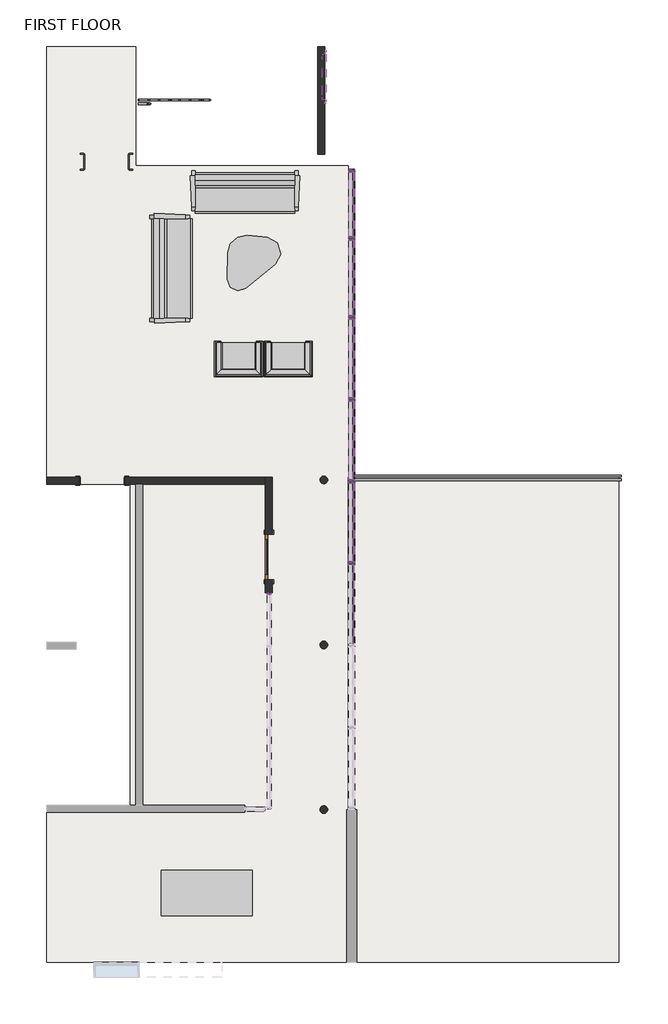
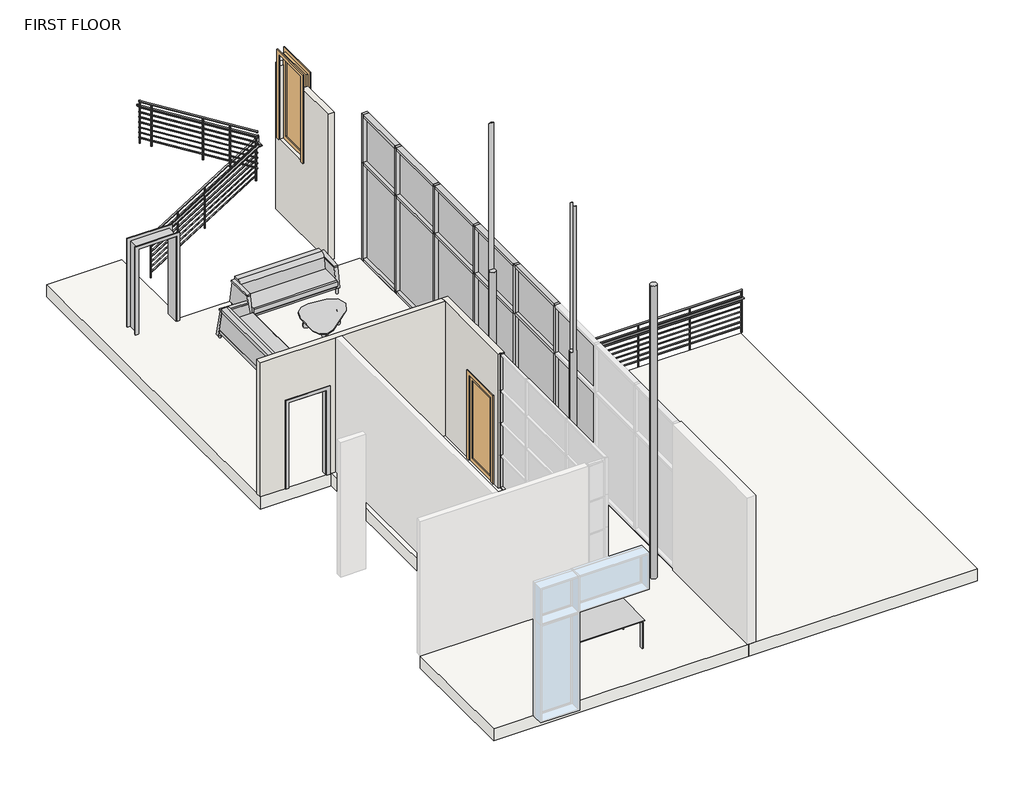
# One storey, part 2 of 2: 33 members, 12 plates, 6 furniture elements, 3 columns, 3 walls, 2 doors, 2 proxies, 2 railings, 2 slabs.
"""IFC4 building model written with IfcOpenShell, lengths in millimetres."""

from ifc_helpers import new_model, si_unit, point, frame, frame_2d, origin, place, context, project, spatial, polyline, circle_curve, trimmed, segment, composite_curve, outline, extrude, faceted_brep, transform, mapped, element, save
from ifc_brep_helpers import plane_surface, cylinder_surface, advanced_brep
from components import proxy_e62dbe84, proxy_6a329109, door_e49b49a8, door_4364fc02, chair_corbu_chair_corbu_2764bdef, maple_legs_6788962f, rectangular_1aa2b72e, furniture_fb1f61f5, member_3d7f9b7e, member_c5b617ba, member_2046a979, member_f0fea5a5, member_591cd9a7, member_245f6595, member_6ce1ec76, member_69c58ec1, member_2b49869a, member_798c2a08, member_d386c7f1, member_75074519, member_ee409385, system_panel_system_panel_6c834083, system_panel_system_panel_0ca576fe, system_panel_system_panel_0b02f3c1, system_panel_system_panel_1039fe1f, system_panel_system_panel_958c1d96, system_panel_system_panel_35b29ec2, guardrail_pipe_18aa489d, guardrail_pipe_fbcf2664

model = new_model("IFC4")

# Units and contexts
model_context = context("Model", 3, world=origin())
ifc_project = project(units=[si_unit("LENGTHUNIT", "METRE", prefix="MILLI")], contexts=[model_context])

# Site, building, storey
site = spatial("IfcSite", under=ifc_project)
building = spatial("IfcBuilding", under=site)
storey = spatial("IfcBuildingStorey", under=building, Name="FIRST FLOOR", Elevation=3657.6)

# Proxies
placement = place(None, origin())
proxy_shape = proxy_e62dbe84(model_context)
element("IfcBuildingElementProxy", 1, Name="Opening-Cased : 36\" x 84\"", ObjectType="Opening-Cased : 36\" x 84\"", at=placement, inside=storey, context=model_context, shape_type="MappedRepresentation", body=[
    mapped(proxy_shape, transform((-3360.7491514, 2930.2310017, 3657.6), x_axis=(-1.0, 0.0, 0.0), y_axis=(0.0, -1.0, 0.0), z_axis=(0.0, 0.0, 1.0))),
])
proxy_2_shape = proxy_6a329109(model_context)
element("IfcBuildingElementProxy", 2, Name="Opening-Cased : 36\" x 84\"", ObjectType="Opening-Cased : 36\" x 84\"", at=placement, inside=storey, context=model_context, shape_type="MappedRepresentation", body=[
    mapped(proxy_2_shape, transform((-3261.691233, 9304.759643, 3657.6), x_axis=(1.0, 0.0, 0.0), y_axis=(0.0, 1.0, 0.0), z_axis=(0.0, 0.0, 1.0))),
])

# Columns
element("IfcColumn", 3, ObjectType="Round Column : 06\" Diameter", at=placement, inside=storey, context=model_context, shape_type="AdvancedBrep", body=[
    advanced_brep(
    [(1126.1605983, 3000.0810017, 10972.8), (1070.1560388, 3024.609643, 10972.8), (1014.1514793, 3000.0810017, 10972.8), (1146.3560388, 2948.409643, 3657.6), (993.9560388, 2948.409643, 3657.6), (1070.1560388, 3024.609643, 3657.6), (1126.1605983, 3000.0810017, 7315.2), (1146.3560388, 2948.409643, 7315.2), (993.9560388, 2948.409643, 7315.2), (1014.1514793, 3000.0810017, 7315.2)],
    [
        (0, 1, circle_curve(frame((1070.1560388, 2948.409643, 10972.8), z_axis=(0.0, 0.0, 1.0), x_axis=(1.0, 0.0, 0.0)), 76.2)),
        (1, 2, circle_curve(frame((1070.1560388, 2948.409643, 10972.8), z_axis=(0.0, 0.0, 1.0), x_axis=(1.0, 0.0, 0.0)), 76.2)),
        (2, 0),
        (3, 4, circle_curve(frame((1070.1560388, 2948.409643, 3657.6), z_axis=(0.0, 0.0, -1.0), x_axis=(1.0, 0.0, 0.0)), 76.2)),
        (4, 5, circle_curve(frame((1070.1560388, 2948.409643, 3657.6), z_axis=(0.0, 0.0, -1.0), x_axis=(1.0, 0.0, 0.0)), 76.2)),
        (5, 3, circle_curve(frame((1070.1560388, 2948.409643, 3657.6), z_axis=(0.0, 0.0, -1.0), x_axis=(1.0, 0.0, 0.0)), 76.2)),
        (5, 1),
        (0, 6),
        (6, 7, circle_curve(frame((1070.1560388, 2948.409643, 7315.2), z_axis=(0.0, 0.0, -1.0), x_axis=(1.0, 0.0, 0.0)), 76.2)),
        (7, 3),
        (4, 8),
        (8, 9, circle_curve(frame((1070.1560388, 2948.409643, 7315.2), z_axis=(0.0, 0.0, -1.0), x_axis=(1.0, 0.0, 0.0)), 76.2)),
        (9, 2),
        (7, 8, circle_curve(frame((1070.1560388, 2948.409643, 7315.2), z_axis=(0.0, 0.0, -1.0), x_axis=(1.0, 0.0, 0.0)), 76.2)),
        (9, 6),
    ],
    [
        plane_surface(frame((1146.3560388, 2948.409643, 10972.8), z_axis=(0.0, 0.0, 1.0), x_axis=(0.0, 1.0, 0.0))),
        plane_surface(frame((1146.3560388, 2948.409643, 3657.6), z_axis=(0.0, 0.0, -1.0), x_axis=(0.0, -1.0, 0.0))),
        cylinder_surface(frame((1070.1560388, 2948.409643, 3657.6), z_axis=(0.0, 0.0, 1.0), x_axis=(1.0, 0.0, 0.0)), 76.2),
        plane_surface(frame((-4460.5633563, 3000.0810017, 7315.2), z_axis=(0.0, -1.0, 0.0), x_axis=(-1.0, 0.0, 0.0))),
        plane_surface(frame((-4619.4439612, 2860.3810017, 7315.2), z_axis=(0.0, 0.0, 1.0), x_axis=(0.0, 1.0, 0.0))),
    ],
    [
        (0, [[1, 2, 3]]),
        (1, [[4, 5, 6]]),
        (2, [[-6, 7, -1, 8, 9, 10]]),
        (2, [[-5, 11, 12, 13, -2, -7]]),
        (2, [[-4, -10, 14, -11]]),
        (3, [[15, -8, -3, -13]]),
        (4, [[-15, -12, -14, -9]]),
    ],
),
])
element("IfcColumn", 4, ObjectType="Round Column : 06\" Diameter", at=placement, inside=storey, context=model_context, shape_type="AdvancedBrep", body=[
    advanced_brep(
    [(1037.7772332, -416.2189983, 10972.8), (1102.5348444, -416.2189983, 10972.8), (1146.3560388, -347.240357, 3657.6), (993.9560388, -347.240357, 3657.6), (1070.1560388, -271.040357, 3657.6), (1070.1560388, -271.040357, 10972.8), (1098.5273168, -276.5189983, 10972.8), (1098.5273168, -276.5189983, 7315.2), (1146.3560388, -347.240357, 7315.2), (993.9560388, -347.240357, 7315.2), (1041.7847608, -276.5189983, 7315.2), (1041.7847608, -276.5189983, 10972.8), (1102.5348444, -416.2189983, 7315.2), (1037.7772332, -416.2189983, 7315.2)],
    [
        (0, 1, circle_curve(frame((1070.1560388, -347.240357, 10972.8), z_axis=(0.0, 0.0, 1.0), x_axis=(1.0, 0.0, 0.0)), 76.2)),
        (1, 0),
        (2, 3, circle_curve(frame((1070.1560388, -347.240357, 3657.6), z_axis=(0.0, 0.0, -1.0), x_axis=(1.0, 0.0, 0.0)), 76.2)),
        (3, 4, circle_curve(frame((1070.1560388, -347.240357, 3657.6), z_axis=(0.0, 0.0, -1.0), x_axis=(1.0, 0.0, 0.0)), 76.2)),
        (4, 2, circle_curve(frame((1070.1560388, -347.240357, 3657.6), z_axis=(0.0, 0.0, -1.0), x_axis=(1.0, 0.0, 0.0)), 76.2)),
        (4, 5),
        (5, 6, circle_curve(frame((1070.1560388, -347.240357, 10972.8), z_axis=(0.0, 0.0, -1.0), x_axis=(1.0, 0.0, 0.0)), 76.2)),
        (6, 7),
        (7, 8, circle_curve(frame((1070.1560388, -347.240357, 7315.2), z_axis=(0.0, 0.0, -1.0), x_axis=(1.0, 0.0, 0.0)), 76.2)),
        (8, 2),
        (3, 9),
        (9, 10, circle_curve(frame((1070.1560388, -347.240357, 7315.2), z_axis=(0.0, 0.0, -1.0), x_axis=(1.0, 0.0, 0.0)), 76.2)),
        (10, 11),
        (11, 5, circle_curve(frame((1070.1560388, -347.240357, 10972.8), z_axis=(0.0, 0.0, -1.0), x_axis=(1.0, 0.0, 0.0)), 76.2)),
        (8, 12, circle_curve(frame((1070.1560388, -347.240357, 7315.2), z_axis=(0.0, 0.0, -1.0), x_axis=(1.0, 0.0, 0.0)), 76.2)),
        (12, 1),
        (0, 13),
        (13, 9, circle_curve(frame((1070.1560388, -347.240357, 7315.2), z_axis=(0.0, 0.0, -1.0), x_axis=(1.0, 0.0, 0.0)), 76.2)),
        (12, 13),
        (10, 7),
        (6, 11),
    ],
    [
        plane_surface(frame((1146.3560388, -347.240357, 10972.8), z_axis=(0.0, 0.0, 1.0), x_axis=(0.0, 1.0, 0.0))),
        plane_surface(frame((1146.3560388, -347.240357, 3657.6), z_axis=(0.0, 0.0, -1.0), x_axis=(0.0, -1.0, 0.0))),
        cylinder_surface(frame((1070.1560388, -347.240357, 3657.6), z_axis=(0.0, 0.0, 1.0), x_axis=(1.0, 0.0, 0.0)), 76.2),
        plane_surface(frame((-2203.0798898, -416.2189983, 7315.2), z_axis=(0.0, 1.0, 0.0), x_axis=(1.0, 0.0, 0.0))),
        plane_surface(frame((-2203.0798898, -276.5189983, 7315.2), z_axis=(0.0, -1.0, 0.0), x_axis=(-1.0, 0.0, 0.0))),
        plane_surface(frame((-4619.4439612, -416.2189983, 7315.2), z_axis=(0.0, 0.0, 1.0), x_axis=(0.0, 1.0, 0.0))),
    ],
    [
        (0, [[1, 2]]),
        (1, [[3, 4, 5]]),
        (2, [[-5, 6, 7, 8, 9, 10]]),
        (2, [[-4, 11, 12, 13, 14, -6]]),
        (2, [[-3, -10, 15, 16, -1, 17, 18, -11]]),
        (3, [[19, -17, -2, -16]]),
        (4, [[20, -8, 21, -13]]),
        (5, [[-19, -15, -9, -20, -12, -18]]),
        (0, [[-7, -14, -21]]),
    ],
),
])
element("IfcColumn", 5, ObjectType="Round Column : 06\" Diameter", at=placement, inside=storey, context=model_context, shape_type="SweptSolid", body=[
    extrude(outline(composite_curve([segment(trimmed(circle_curve(frame_2d((1070.1560388, -3636.540357)), 76.2), [point((1146.3560388, -3636.540357))], [point((993.9560388, -3636.540357))], False, "CARTESIAN"), True, "CONTINUOUS"), segment(trimmed(circle_curve(frame_2d((1070.1560388, -3636.540357)), 76.2), [point((993.9560388, -3636.540357))], [point((1070.1560388, -3560.340357))], False, "CARTESIAN"), True, "CONTINUOUS"), segment(trimmed(circle_curve(frame_2d((1070.1560388, -3636.540357)), 76.2), [point((1070.1560388, -3560.340357))], [point((1146.3560388, -3636.540357))], False, "CARTESIAN"), True, "CONTINUOUS")], self_intersect=False)), frame((0.0, 0.0, 3657.6), z_axis=(0.0, 0.0, 1.0), x_axis=(1.0, 0.0, 0.0)), (0.0, 0.0, 1.0), 7315.2),
])

# Doors
door_shape = door_e49b49a8(model_context)
element("IfcDoor", 6, ObjectType="Single-Glass 1 : 36\" x 84\"", at=placement, inside=storey, context=model_context, shape_type="MappedRepresentation", body=[
    mapped(door_shape, transform((-25.1604947, 1406.2310017, 3657.6), x_axis=(0.0, 1.0, 0.0), y_axis=(-1.0, 0.0, 0.0), z_axis=(0.0, 0.0, 1.0))),
])
door_2_shape = door_4364fc02(model_context)
element("IfcDoor", 7, ObjectType="Single-Glass 1 : 36\" x 84\"", at=placement, inside=storey, context=model_context, shape_type="MappedRepresentation", body=[
    mapped(door_2_shape, transform((1019.3560388, 10993.859643, 5486.4), x_axis=(0.0, 1.0, 0.0), y_axis=(-1.0, 0.0, 0.0), z_axis=(0.0, 0.0, 1.0))),
])

# Furniture
chair_corbu_chair_corbu_shape = chair_corbu_chair_corbu_2764bdef(model_context)
element("IfcFurniture", 8, ObjectType="Chair-Corbu : Chair-Corbu", at=placement, inside=storey, context=model_context, shape_type="MappedRepresentation", body=[
    mapped(chair_corbu_chair_corbu_shape, transform((-58.2701907, 5828.6440797, 3657.6), x_axis=(-1.0, 0.0, 0.0), y_axis=(0.0, -1.0, 0.0), z_axis=(0.0, 0.0, 1.0))),
])
element("IfcFurniture", 9, ObjectType="Chair-Corbu : Chair-Corbu", at=placement, inside=storey, context=model_context, shape_type="MappedRepresentation", body=[
    mapped(chair_corbu_chair_corbu_shape, transform((932.3298093, 5828.6440797, 3657.6), x_axis=(-1.0, 0.0, 0.0), y_axis=(0.0, -1.0, 0.0), z_axis=(0.0, 0.0, 1.0))),
])
maple_legs_shape = maple_legs_6788962f(model_context)
element("IfcFurniture", 10, ObjectType="Noguchi Table : Maple Legs", at=placement, inside=storey, context=model_context, shape_type="MappedRepresentation", body=[
    mapped(maple_legs_shape, transform((-434.0370581, 7273.9826735, 3657.6), x_axis=(-0.7744949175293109, -0.6325801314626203, 0.0), y_axis=(0.6325801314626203, -0.7744949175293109, 0.0), z_axis=(0.0, 0.0, 1.0))),
])
rectangular_shape = rectangular_1aa2b72e(model_context)
element("IfcFurniture", 11, ObjectType="Alvar Aalto Table : Rectangular", at=placement, inside=storey, context=model_context, shape_type="MappedRepresentation", body=[
    mapped(rectangular_shape, transform((-1266.6439612, -5299.3689983, 3657.6), x_axis=(1.0, 0.0, 0.0), y_axis=(0.0, 1.0, 0.0), z_axis=(0.0, 0.0, 1.0))),
])
furniture_shape = furniture_fb1f61f5(model_context)
element("IfcFurniture", 12, ObjectType="Sofa-Pensi : 84\"", at=placement, inside=storey, context=model_context, shape_type="MappedRepresentation", body=[
    mapped(furniture_shape, transform((-783.2502112, 8418.0498069, 3657.6), x_axis=(1.0, 0.0, 0.0), y_axis=(0.0, 1.0, 0.0), z_axis=(0.0, 0.0, 1.0))),
])
element("IfcFurniture", 13, ObjectType="Sofa-Pensi : 84\"", at=placement, inside=storey, context=model_context, shape_type="MappedRepresentation", body=[
    mapped(furniture_shape, transform((-1702.1471622, 6892.553393, 3657.6), x_axis=(0.0, 1.0, 0.0), y_axis=(-1.0, 0.0, 0.0), z_axis=(0.0, 0.0, 1.0))),
])

# Members
member_shape = member_3d7f9b7e(model_context)
element("IfcMember", 14, ObjectType="Rectangular Mullion : 1.5\" x 2.5\" rectangular", at=placement, inside=storey, context=model_context, shape_type="MappedRepresentation", body=[
    mapped(member_shape, transform((-25.1604947, 656.9310017, 3657.6), x_axis=(0.0, 0.0, -1.0), y_axis=(-1.0, 0.0, 0.0), z_axis=(0.0, 1.0, 0.0))),
])
member_2_shape = member_c5b617ba(model_context)
element("IfcMember", 15, ObjectType="Rectangular Mullion : 1.5\" x 2.5\" rectangular", at=placement, inside=storey, context=model_context, shape_type="MappedRepresentation", body=[
    mapped(member_2_shape, transform((-25.1604947, 695.0310017, 7010.4), x_axis=(0.0, 1.0, 0.0), y_axis=(-1.0, 0.0, 0.0), z_axis=(0.0, 0.0, 1.0))),
])
member_3_shape = member_2046a979(model_context)
element("IfcMember", 16, ObjectType="Rectangular Mullion : 1.5\" x 2.5\" rectangular", at=placement, inside=storey, context=model_context, shape_type="MappedRepresentation", body=[
    mapped(member_3_shape, transform((-25.1604947, 695.0310017, 6096.0), x_axis=(0.0, 1.0, 0.0), y_axis=(-1.0, 0.0, 0.0), z_axis=(0.0, 0.0, 1.0))),
])
element("IfcMember", 17, ObjectType="Rectangular Mullion : 1.5\" x 2.5\" rectangular", at=placement, inside=storey, context=model_context, shape_type="MappedRepresentation", body=[
    mapped(member_3_shape, transform((-25.1604947, 695.0310017, 5283.2), x_axis=(0.0, 1.0, 0.0), y_axis=(-1.0, 0.0, 0.0), z_axis=(0.0, 0.0, 1.0))),
])
element("IfcMember", 18, ObjectType="Rectangular Mullion : 1.5\" x 2.5\" rectangular", at=placement, inside=storey, context=model_context, shape_type="MappedRepresentation", body=[
    mapped(member_3_shape, transform((-25.1604947, 695.0310017, 4470.4), x_axis=(0.0, 1.0, 0.0), y_axis=(-1.0, 0.0, 0.0), z_axis=(0.0, 0.0, 1.0))),
])
member_4_shape = member_f0fea5a5(model_context)
element("IfcMember", 19, ObjectType="Rectangular Mullion : 2.5\" x 5\" rectangular", at=placement, inside=storey, context=model_context, shape_type="MappedRepresentation", body=[
    mapped(member_4_shape, transform((1628.9560388, 2916.659643, 3657.6), x_axis=(0.0, -1.0, 0.0), y_axis=(-1.0, 0.0, 0.0), z_axis=(0.0, 0.0, -1.0))),
])
element("IfcMember", 20, ObjectType="Rectangular Mullion : 2.5\" x 5\" rectangular", at=placement, inside=storey, context=model_context, shape_type="MappedRepresentation", body=[
    mapped(member_4_shape, transform((1628.9560388, 6193.259643, 3657.6), x_axis=(0.0, -1.0, 0.0), y_axis=(-1.0, 0.0, 0.0), z_axis=(0.0, 0.0, -1.0))),
])
element("IfcMember", 21, ObjectType="Rectangular Mullion : 2.5\" x 5\" rectangular", at=placement, inside=storey, context=model_context, shape_type="MappedRepresentation", body=[
    mapped(member_4_shape, transform((1628.9560388, 1278.359643, 3657.6), x_axis=(0.0, -1.0, 0.0), y_axis=(-1.0, 0.0, 0.0), z_axis=(0.0, 0.0, -1.0))),
])
element("IfcMember", 22, ObjectType="Rectangular Mullion : 2.5\" x 5\" rectangular", at=placement, inside=storey, context=model_context, shape_type="MappedRepresentation", body=[
    mapped(member_4_shape, transform((1628.9560388, 4554.959643, 3657.6), x_axis=(0.0, -1.0, 0.0), y_axis=(-1.0, 0.0, 0.0), z_axis=(0.0, 0.0, -1.0))),
])
element("IfcMember", 23, ObjectType="Rectangular Mullion : 2.5\" x 5\" rectangular", at=placement, inside=storey, context=model_context, shape_type="MappedRepresentation", body=[
    mapped(member_4_shape, transform((1628.9560388, 7768.059643, 3657.6), x_axis=(0.0, -1.0, 0.0), y_axis=(-1.0, 0.0, 0.0), z_axis=(0.0, 0.0, -1.0))),
])
member_5_shape = member_591cd9a7(model_context)
element("IfcMember", 24, ObjectType="Rectangular Mullion : 2.5\" x 5\" rectangular", at=placement, inside=storey, context=model_context, shape_type="MappedRepresentation", body=[
    mapped(member_5_shape, transform((1628.9560388, 1310.109643, 6096.0), x_axis=(0.0, 0.0, 1.0), y_axis=(-1.0, 0.0, 0.0), z_axis=(0.0, -1.0, 0.0))),
])
element("IfcMember", 25, ObjectType="Rectangular Mullion : 2.5\" x 5\" rectangular", at=placement, inside=storey, context=model_context, shape_type="MappedRepresentation", body=[
    mapped(member_5_shape, transform((1628.9560388, 4586.709643, 6096.0), x_axis=(0.0, 0.0, 1.0), y_axis=(-1.0, 0.0, 0.0), z_axis=(0.0, -1.0, 0.0))),
])
element("IfcMember", 26, ObjectType="Rectangular Mullion : 2.5\" x 5\" rectangular", at=placement, inside=storey, context=model_context, shape_type="MappedRepresentation", body=[
    mapped(member_5_shape, transform((1628.9560388, 2948.409643, 6096.0), x_axis=(0.0, 0.0, 1.0), y_axis=(-1.0, 0.0, 0.0), z_axis=(0.0, -1.0, 0.0))),
])
member_6_shape = member_245f6595(model_context)
element("IfcMember", 27, ObjectType="Rectangular Mullion : 2.5\" x 5\" rectangular", at=placement, inside=storey, context=model_context, shape_type="MappedRepresentation", body=[
    mapped(member_6_shape, transform((1628.9560388, 6225.009643, 6096.0), x_axis=(0.0, 0.0, 1.0), y_axis=(-1.0, 0.0, 0.0), z_axis=(0.0, -1.0, 0.0))),
])
member_7_shape = member_6ce1ec76(model_context)
element("IfcMember", 28, ObjectType="Rectangular Mullion : 2.5\" x 5\" rectangular", at=placement, inside=storey, context=model_context, shape_type="MappedRepresentation", body=[
    mapped(member_7_shape, transform((1628.9560388, 2948.409643, 7315.2), x_axis=(0.0, 0.0, 1.0), y_axis=(-1.0, 0.0, 0.0), z_axis=(0.0, -1.0, 0.0))),
])
element("IfcMember", 29, ObjectType="Rectangular Mullion : 2.5\" x 5\" rectangular", at=placement, inside=storey, context=model_context, shape_type="MappedRepresentation", body=[
    mapped(member_7_shape, transform((1628.9560388, 1310.109643, 7315.2), x_axis=(0.0, 0.0, 1.0), y_axis=(-1.0, 0.0, 0.0), z_axis=(0.0, -1.0, 0.0))),
])
element("IfcMember", 30, ObjectType="Rectangular Mullion : 2.5\" x 5\" rectangular", at=placement, inside=storey, context=model_context, shape_type="MappedRepresentation", body=[
    mapped(member_7_shape, transform((1628.9560388, 4586.709643, 7315.2), x_axis=(0.0, 0.0, 1.0), y_axis=(-1.0, 0.0, 0.0), z_axis=(0.0, -1.0, 0.0))),
])
member_8_shape = member_69c58ec1(model_context)
element("IfcMember", 31, ObjectType="Rectangular Mullion : 2.5\" x 5\" rectangular", at=placement, inside=storey, context=model_context, shape_type="MappedRepresentation", body=[
    mapped(member_8_shape, transform((1628.9560388, 6225.009643, 7315.2), x_axis=(0.0, 0.0, 1.0), y_axis=(-1.0, 0.0, 0.0), z_axis=(0.0, -1.0, 0.0))),
])
member_9_shape = member_2b49869a(model_context)
element("IfcMember", 32, ObjectType="Rectangular Mullion : 2.5\" x 5\" rectangular", at=placement, inside=storey, context=model_context, shape_type="MappedRepresentation", body=[
    mapped(member_9_shape, transform((1628.9560388, 2916.659643, 6096.0), x_axis=(0.0, -1.0, 0.0), y_axis=(-1.0, 0.0, 0.0), z_axis=(0.0, 0.0, -1.0))),
])
element("IfcMember", 33, ObjectType="Rectangular Mullion : 2.5\" x 5\" rectangular", at=placement, inside=storey, context=model_context, shape_type="MappedRepresentation", body=[
    mapped(member_9_shape, transform((1628.9560388, 6193.259643, 6096.0), x_axis=(0.0, -1.0, 0.0), y_axis=(-1.0, 0.0, 0.0), z_axis=(0.0, 0.0, -1.0))),
])
element("IfcMember", 34, ObjectType="Rectangular Mullion : 2.5\" x 5\" rectangular", at=placement, inside=storey, context=model_context, shape_type="MappedRepresentation", body=[
    mapped(member_9_shape, transform((1628.9560388, 1278.359643, 6096.0), x_axis=(0.0, -1.0, 0.0), y_axis=(-1.0, 0.0, 0.0), z_axis=(0.0, 0.0, -1.0))),
])
element("IfcMember", 35, ObjectType="Rectangular Mullion : 2.5\" x 5\" rectangular", at=placement, inside=storey, context=model_context, shape_type="MappedRepresentation", body=[
    mapped(member_9_shape, transform((1628.9560388, 4554.959643, 6096.0), x_axis=(0.0, -1.0, 0.0), y_axis=(-1.0, 0.0, 0.0), z_axis=(0.0, 0.0, -1.0))),
])
element("IfcMember", 36, ObjectType="Rectangular Mullion : 2.5\" x 5\" rectangular", at=placement, inside=storey, context=model_context, shape_type="MappedRepresentation", body=[
    mapped(member_9_shape, transform((1628.9560388, 7768.059643, 6096.0), x_axis=(0.0, -1.0, 0.0), y_axis=(-1.0, 0.0, 0.0), z_axis=(0.0, 0.0, -1.0))),
])
member_10_shape = member_798c2a08(model_context)
element("IfcMember", 37, ObjectType="Rectangular Mullion : 2.5\" x 5\" rectangular", at=placement, inside=storey, context=model_context, shape_type="MappedRepresentation", body=[
    mapped(member_10_shape, transform((1628.9560388, 7799.809643, 7315.2), x_axis=(0.0, 0.0, 1.0), y_axis=(-1.0, 0.0, 0.0), z_axis=(0.0, -1.0, 0.0))),
])
member_11_shape = member_d386c7f1(model_context)
element("IfcMember", 38, ObjectType="Rectangular Mullion : 2.5\" x 5\" rectangular", at=placement, inside=storey, context=model_context, shape_type="MappedRepresentation", body=[
    mapped(member_11_shape, transform((1628.9560388, 7799.809643, 6096.0), x_axis=(0.0, 0.0, 1.0), y_axis=(-1.0, 0.0, 0.0), z_axis=(0.0, -1.0, 0.0))),
])
element("IfcMember", 39, ObjectType="Rectangular Mullion : 2.5\" x 5\" rectangular", at=placement, inside=storey, context=model_context, shape_type="MappedRepresentation", body=[
    mapped(member_10_shape, transform((1628.9560388, 9088.859643, 3657.6), x_axis=(0.0, 0.0, -1.0), y_axis=(-1.0, 0.0, 0.0), z_axis=(0.0, 1.0, 0.0))),
])
element("IfcMember", 40, ObjectType="Rectangular Mullion : 2.5\" x 5\" rectangular", at=placement, inside=storey, context=model_context, shape_type="MappedRepresentation", body=[
    mapped(member_7_shape, transform((1628.9560388, 2884.909643, 3657.6), x_axis=(0.0, 0.0, -1.0), y_axis=(-1.0, 0.0, 0.0), z_axis=(0.0, 1.0, 0.0))),
])
element("IfcMember", 41, ObjectType="Rectangular Mullion : 2.5\" x 5\" rectangular", at=placement, inside=storey, context=model_context, shape_type="MappedRepresentation", body=[
    mapped(member_7_shape, transform((1628.9560388, 6161.509643, 3657.6), x_axis=(0.0, 0.0, -1.0), y_axis=(-1.0, 0.0, 0.0), z_axis=(0.0, 1.0, 0.0))),
])
element("IfcMember", 42, ObjectType="Rectangular Mullion : 2.5\" x 5\" rectangular", at=placement, inside=storey, context=model_context, shape_type="MappedRepresentation", body=[
    mapped(member_7_shape, transform((1628.9560388, 1246.609643, 3657.6), x_axis=(0.0, 0.0, -1.0), y_axis=(-1.0, 0.0, 0.0), z_axis=(0.0, 1.0, 0.0))),
])
element("IfcMember", 43, ObjectType="Rectangular Mullion : 2.5\" x 5\" rectangular", at=placement, inside=storey, context=model_context, shape_type="MappedRepresentation", body=[
    mapped(member_7_shape, transform((1628.9560388, 4523.209643, 3657.6), x_axis=(0.0, 0.0, -1.0), y_axis=(-1.0, 0.0, 0.0), z_axis=(0.0, 1.0, 0.0))),
])
element("IfcMember", 44, ObjectType="Rectangular Mullion : 2.5\" x 5\" rectangular", at=placement, inside=storey, context=model_context, shape_type="MappedRepresentation", body=[
    mapped(member_8_shape, transform((1628.9560388, 7736.309643, 3657.6), x_axis=(0.0, 0.0, -1.0), y_axis=(-1.0, 0.0, 0.0), z_axis=(0.0, 1.0, 0.0))),
])
member_12_shape = member_75074519(model_context)
element("IfcMember", 45, ObjectType="Rectangular Mullion : 2.5\" x 5\" rectangular", at=placement, inside=storey, context=model_context, shape_type="MappedRepresentation", body=[
    mapped(member_12_shape, transform((1628.9560388, 9152.359643, 7315.2), x_axis=(0.0, 1.0, 0.0), y_axis=(-1.0, 0.0, 0.0), z_axis=(0.0, 0.0, 1.0))),
])
member_13_shape = member_ee409385(model_context)
element("IfcMember", 46, ObjectType="Rectangular Mullion : 2.5\" x 5\" rectangular", at=placement, inside=storey, context=model_context, shape_type="MappedRepresentation", body=[
    mapped(member_13_shape, transform((1628.9560388, 9152.359643, 6096.0), x_axis=(0.0, 1.0, 0.0), y_axis=(-1.0, 0.0, 0.0), z_axis=(0.0, 0.0, 1.0))),
])

# Plates
system_panel_system_panel_shape = system_panel_system_panel_6c834083(model_context)
element("IfcPlate", 47, ObjectType="System Panel : System Panel", at=placement, inside=storey, context=model_context, shape_type="MappedRepresentation", body=[
    mapped(system_panel_system_panel_shape, transform((1628.9560388, 2097.509643, 3721.1), x_axis=(0.0, -1.0, 0.0), y_axis=(1.0, 0.0, 0.0), z_axis=(0.0, 0.0, 1.0))),
])
element("IfcPlate", 48, ObjectType="System Panel : System Panel", at=placement, inside=storey, context=model_context, shape_type="MappedRepresentation", body=[
    mapped(system_panel_system_panel_shape, transform((1628.9560388, 5374.109643, 3721.1), x_axis=(0.0, -1.0, 0.0), y_axis=(1.0, 0.0, 0.0), z_axis=(0.0, 0.0, 1.0))),
])
element("IfcPlate", 49, ObjectType="System Panel : System Panel", at=placement, inside=storey, context=model_context, shape_type="MappedRepresentation", body=[
    mapped(system_panel_system_panel_shape, transform((1628.9560388, 459.209643, 3721.1), x_axis=(0.0, -1.0, 0.0), y_axis=(1.0, 0.0, 0.0), z_axis=(0.0, 0.0, 1.0))),
])
element("IfcPlate", 50, ObjectType="System Panel : System Panel", at=placement, inside=storey, context=model_context, shape_type="MappedRepresentation", body=[
    mapped(system_panel_system_panel_shape, transform((1628.9560388, 3735.809643, 3721.1), x_axis=(0.0, -1.0, 0.0), y_axis=(1.0, 0.0, 0.0), z_axis=(0.0, 0.0, 1.0))),
])
system_panel_system_panel_2_shape = system_panel_system_panel_0ca576fe(model_context)
element("IfcPlate", 51, ObjectType="System Panel : System Panel", at=placement, inside=storey, context=model_context, shape_type="MappedRepresentation", body=[
    mapped(system_panel_system_panel_2_shape, transform((1628.9560388, 5374.109643, 6127.75), x_axis=(0.0, -1.0, 0.0), y_axis=(1.0, 0.0, 0.0), z_axis=(0.0, 0.0, 1.0))),
])
element("IfcPlate", 52, ObjectType="System Panel : System Panel", at=placement, inside=storey, context=model_context, shape_type="MappedRepresentation", body=[
    mapped(system_panel_system_panel_2_shape, transform((1628.9560388, 2097.509643, 6127.75), x_axis=(0.0, -1.0, 0.0), y_axis=(1.0, 0.0, 0.0), z_axis=(0.0, 0.0, 1.0))),
])
element("IfcPlate", 53, ObjectType="System Panel : System Panel", at=placement, inside=storey, context=model_context, shape_type="MappedRepresentation", body=[
    mapped(system_panel_system_panel_2_shape, transform((1628.9560388, 459.209643, 6127.75), x_axis=(0.0, -1.0, 0.0), y_axis=(1.0, 0.0, 0.0), z_axis=(0.0, 0.0, 1.0))),
])
element("IfcPlate", 54, ObjectType="System Panel : System Panel", at=placement, inside=storey, context=model_context, shape_type="MappedRepresentation", body=[
    mapped(system_panel_system_panel_2_shape, transform((1628.9560388, 3735.809643, 6127.75), x_axis=(0.0, -1.0, 0.0), y_axis=(1.0, 0.0, 0.0), z_axis=(0.0, 0.0, 1.0))),
])
system_panel_system_panel_3_shape = system_panel_system_panel_0b02f3c1(model_context)
element("IfcPlate", 55, ObjectType="System Panel : System Panel", at=placement, inside=storey, context=model_context, shape_type="MappedRepresentation", body=[
    mapped(system_panel_system_panel_3_shape, transform((1628.9560388, 6980.659643, 3721.1), x_axis=(0.0, -1.0, 0.0), y_axis=(1.0, 0.0, 0.0), z_axis=(0.0, 0.0, 1.0))),
])
system_panel_system_panel_4_shape = system_panel_system_panel_1039fe1f(model_context)
element("IfcPlate", 56, ObjectType="System Panel : System Panel", at=placement, inside=storey, context=model_context, shape_type="MappedRepresentation", body=[
    mapped(system_panel_system_panel_4_shape, transform((1628.9560388, 6980.659643, 6127.75), x_axis=(0.0, -1.0, 0.0), y_axis=(1.0, 0.0, 0.0), z_axis=(0.0, 0.0, 1.0))),
])
system_panel_system_panel_5_shape = system_panel_system_panel_958c1d96(model_context)
element("IfcPlate", 57, ObjectType="System Panel : System Panel", at=placement, inside=storey, context=model_context, shape_type="MappedRepresentation", body=[
    mapped(system_panel_system_panel_5_shape, transform((1628.9560388, 8444.334643, 3721.1), x_axis=(0.0, -1.0, 0.0), y_axis=(1.0, 0.0, 0.0), z_axis=(0.0, 0.0, 1.0))),
])
system_panel_system_panel_6_shape = system_panel_system_panel_35b29ec2(model_context)
element("IfcPlate", 58, ObjectType="System Panel : System Panel", at=placement, inside=storey, context=model_context, shape_type="MappedRepresentation", body=[
    mapped(system_panel_system_panel_6_shape, transform((1628.9560388, 8444.334643, 6127.75), x_axis=(0.0, -1.0, 0.0), y_axis=(1.0, 0.0, 0.0), z_axis=(0.0, 0.0, 1.0))),
])

# Railings
guardrail_pipe_shape = guardrail_pipe_18aa489d(model_context)
element("IfcRailing", 59, ObjectType="Guardrail - Pipe", at=placement, inside=storey, context=model_context, shape_type="MappedRepresentation", body=[
    mapped(guardrail_pipe_shape, transform((0.0, 0.0, 0.0), x_axis=(1.0, 0.0, 0.0), y_axis=(0.0, 1.0, 0.0), z_axis=(0.0, 0.0, 1.0))),
])
guardrail_pipe_2_shape = guardrail_pipe_fbcf2664(model_context)
element("IfcRailing", 60, ObjectType="Guardrail - Pipe", at=placement, inside=storey, context=model_context, shape_type="MappedRepresentation", body=[
    mapped(guardrail_pipe_2_shape, transform((0.0, 0.0, 0.0), x_axis=(1.0, 0.0, 0.0), y_axis=(0.0, 1.0, 0.0), z_axis=(0.0, 0.0, 1.0))),
])

# Slabs
element("IfcSlab", 61, ObjectType="Generic - 12\"", at=placement, inside=storey, context=model_context, shape_type="SweptSolid", body=[
    extrude(outline(polyline([(-4467.0439612, 2860.3810017), (-4467.0439612, 11603.459643), (-2685.8104947, 11603.459643), (-2685.8104947, 9222.209643), (1559.1060388, 9222.209643), (1559.1060388, -6684.540357), (-4467.0439612, -6684.540357), (-4467.0439612, -3692.8189983), (-2790.6439612, -3692.8189983), (-2790.6439612, 2860.3810017), (-4467.0439612, 2860.3810017)])), frame((0.0, 0.0, 3352.8), z_axis=(0.0, 0.0, 1.0), x_axis=(1.0, 0.0, 0.0)), (0.0, 0.0, 1.0), 304.8),
])
element("IfcSlab", 62, ObjectType="Generic - 12\"", at=placement, inside=storey, context=model_context, shape_type="SweptSolid", body=[
    extrude(outline(polyline([(1559.1060388, -6684.540357), (1559.1060388, 3000.0810017), (6962.9560388, 3000.0810017), (6962.9560388, -6684.540357), (1559.1060388, -6684.540357)])), frame((0.0, 0.0, 3352.8), z_axis=(0.0, 0.0, 1.0), x_axis=(1.0, 0.0, 0.0)), (0.0, 0.0, 1.0), 304.8),
])

# Walls
element("IfcWall", 63, ObjectType="Interior - 5 1/2\" Partition (1-hr)", at=placement, inside=storey, context=model_context, shape_type="Brep", body=[
    faceted_brep([(-4467.0439612, 2860.3810017, 3657.6), (-3809.7604947, 2860.3810017, 3657.6), (-3809.7604947, 2860.3810017, 5791.2), (-2895.3604947, 2860.3810017, 5791.2), (-2895.3604947, 2860.3810017, 3657.6), (-2685.8104947, 2860.3810017, 3657.6), (-2546.1104947, 2860.3810017, 3657.6), (-95.0104947, 2860.3810017, 3657.6), (-95.0104947, 2860.3810017, 7010.4), (-2546.1104947, 2860.3810017, 7010.4), (-2685.8104947, 2860.3810017, 7010.4), (-4467.0439612, 2860.3810017, 7010.4), (-3809.7604947, 3000.0810017, 5791.2), (-3809.7604947, 3000.0810017, 3657.6), (-4467.0439612, 3000.0810017, 3657.6), (-4467.0439612, 3000.0810017, 7010.4), (-95.0104947, 3000.0810017, 7010.4), (-95.0104947, 3000.0810017, 3657.6), (-2895.3604947, 3000.0810017, 3657.6), (-2895.3604947, 3000.0810017, 5791.2)], [[[0, 1, 2, 3, 4, 5, 6, 7, 8, 9, 10, 11]], [[12, 13, 14, 15, 16, 17, 18, 19]], [[14, 13, 1, 0]], [[18, 17, 7, 6, 5, 4]], [[8, 7, 17, 16]], [[0, 11, 15, 14]], [[11, 10, 9, 8, 16, 15]], [[4, 3, 19, 18]], [[2, 1, 13, 12]], [[3, 2, 12, 19]]]),
])
element("IfcWall", 64, ObjectType="Interior - 5 1/2\" Partition (1-hr)", at=placement, inside=storey, context=model_context, shape_type="Brep", body=[
    faceted_brep([(-95.0104947, 3000.0810017, 3657.6), (-95.0104947, 2860.3810017, 3657.6), (-95.0104947, 1863.4310017, 3657.6), (-95.0104947, 1863.4310017, 5791.2), (-95.0104947, 949.0310017, 5791.2), (-95.0104947, 949.0310017, 3657.6), (-95.0104947, 695.0310017, 3657.6), (-95.0104947, 695.0310017, 7010.4), (-95.0104947, 2860.3810017, 7010.4), (-95.0104947, 3000.0810017, 7010.4), (44.6895053, 1863.4310017, 5791.2), (44.6895053, 1863.4310017, 3657.6), (44.6895053, 3000.0810017, 3657.6), (44.6895053, 3000.0810017, 7010.4), (44.6895053, 695.0310017, 7010.4), (44.6895053, 695.0310017, 3657.6), (44.6895053, 949.0310017, 3657.6), (44.6895053, 949.0310017, 5791.2)], [[[0, 1, 2, 3, 4, 5, 6, 7, 8, 9]], [[10, 11, 12, 13, 14, 15, 16, 17]], [[12, 11, 2, 1, 0]], [[16, 15, 6, 5]], [[7, 6, 15, 14]], [[0, 9, 13, 12]], [[9, 8, 7, 14, 13]], [[3, 2, 11, 10]], [[4, 3, 10, 17]], [[5, 4, 17, 16]]]),
])
element("IfcWall", 65, ObjectType="Interior - 5 1/2\" Partition (1-hr)", at=placement, inside=storey, context=model_context, shape_type="SweptSolid", body=[
    extrude(outline(polyline([(11603.459643, 3657.6), (9457.159643, 3657.6), (9457.159643, 7315.2), (10536.659643, 7315.2), (10536.659643, 5486.4), (11451.059643, 5486.4), (11451.059643, 7315.2), (11603.459643, 7315.2), (11603.459643, 3657.6)])), frame((949.5060388, 0.0, 0.0), z_axis=(1.0, 0.0, 0.0), x_axis=(0.0, 1.0, 0.0)), (0.0, 0.0, 1.0), 139.7),
])

save(model, "model.ifc")
